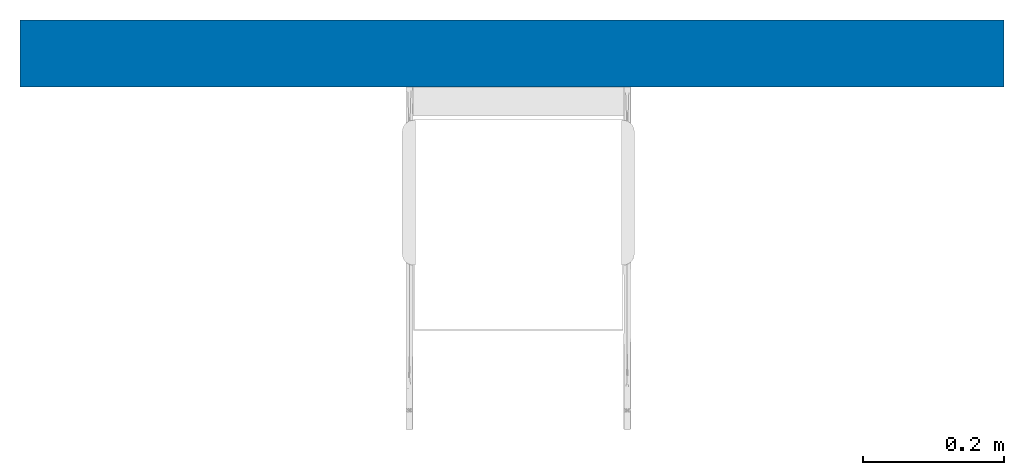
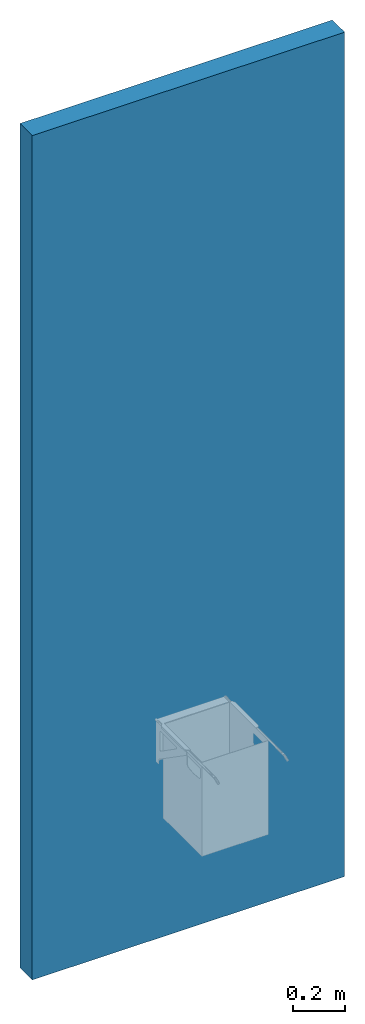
# One storey, incomplete: 1 wall.
"""IFC2X3 building model written with IfcOpenShell, lengths in millimetres."""

import ifcopenshell
import ifcopenshell.guid

model = None  # the IFC model being written
_history = None  # IfcOwnerHistory: only IFC2X3 demands one
_inside = {}  # id of a spatial element -> (the spatial element, [elements in it])
_under = {}  # id of a project, library or spatial element -> (it, [spatial elements below it])
_declared = {}  # id of a project -> (the project, [libraries it declares])
_typed = {}  # id of a type object -> (the type object, [elements of that type])
_made_of = {}  # id of a material, layer set ... -> (it, [elements and type objects made of it])


def new_model(schema):
    """Start an empty IFC model of exactly this schema.

    Asked for "IFC4X3", IfcOpenShell would pick the latest addendum, in which some entities
    have other attributes; the version numbers below select the first issue.
    IFC2X3 requires an IfcOwnerHistory on every rooted entity: one is made here for all.
    """
    global model, _history
    if schema == "IFC4X3":
        model = ifcopenshell.file(schema_version=(4, 3, 0, 0))
    else:
        model = ifcopenshell.file(schema=schema)
    _inside.clear()
    _under.clear()
    _declared.clear()
    _typed.clear()
    _made_of.clear()
    _history = None
    if model.schema == "IFC2X3":
        org = make("IfcOrganization", Name="unknown")
        user = make(
            "IfcPersonAndOrganization",
            ThePerson=make("IfcPerson", FamilyName="unknown"),
            TheOrganization=org,
        )
        app = make(
            "IfcApplication",
            ApplicationDeveloper=org,
            Version="unknown",
            ApplicationFullName="unknown",
            ApplicationIdentifier="unknown",
        )
        _history = make(
            "IfcOwnerHistory",
            OwningUser=user,
            OwningApplication=app,
            ChangeAction="ADDED",
            CreationDate=0,
        )
    return model


def make(cls, **values):
    """One entity of the class cls with the attributes given. An attribute that is None is left unset."""
    return model.create_entity(
        cls, **{name: value for name, value in values.items() if value is not None}
    )


def entity(cls, *values):
    """Any entity or typed value of the class cls, its attributes in the order of the schema. None: left unset."""
    e = model.create_entity(cls)
    for i, value in enumerate(values):
        if value is not None:
            e[i] = value
    return e


def rooted(cls, **values):
    """An entity with a GlobalId (a new one), such as an element, a storey or a relation."""
    return make(cls, GlobalId=ifcopenshell.guid.new(), OwnerHistory=_history, **values)


def si_unit(unit_type, name, prefix=None):
    """IfcSIUnit, for example si_unit("LENGTHUNIT", "METRE", prefix="MILLI")."""
    return make("IfcSIUnit", UnitType=unit_type, Prefix=prefix, Name=name)


def converted_unit(unit_type, name, factor, base, dimensions=None, offset=None):
    """IfcConversionBasedUnit, such as the inch: factor (a typed value) times the base unit."""
    return make(
        "IfcConversionBasedUnit"
        if offset is None
        else "IfcConversionBasedUnitWithOffset",
        ConversionOffset=offset,
        Dimensions=None
        if dimensions is None
        else entity("IfcDimensionalExponents", *dimensions),
        UnitType=unit_type,
        Name=name,
        ConversionFactor=make(
            "IfcMeasureWithUnit", ValueComponent=factor, UnitComponent=base
        ),
    )


def derived_unit(unit_type, elements):
    """IfcDerivedUnit: a product of units, each with its exponent."""
    return make(
        "IfcDerivedUnit",
        Elements=[
            make("IfcDerivedUnitElement", Unit=unit, Exponent=power)
            for unit, power in elements
        ],
        UnitType=unit_type,
    )


def assignment(units):
    """IfcUnitAssignment: the units of a project."""
    return None if units is None else make("IfcUnitAssignment", Units=units)


def point(xyz):
    """IfcCartesianPoint."""
    return None if xyz is None else make("IfcCartesianPoint", Coordinates=xyz)


def direction(xyz):
    """IfcDirection."""
    return None if xyz is None else make("IfcDirection", DirectionRatios=xyz)


def frame(location, z_axis=None, x_axis=None):
    """IfcAxis2Placement3D, a coordinate frame: its origin and axes. An axis left out is left unset."""
    return make(
        "IfcAxis2Placement3D",
        Location=point(location),
        Axis=direction(z_axis),
        RefDirection=direction(x_axis),
    )


def frame_2d(location, x_axis=None):
    """IfcAxis2Placement2D, a coordinate frame in the plane: its origin and x axis."""
    return make(
        "IfcAxis2Placement2D", Location=point(location), RefDirection=direction(x_axis)
    )


def origin():
    """The frame at (0, 0, 0) with its axes left unset."""
    return frame((0.0, 0.0, 0.0))


def place(relative_to, where):
    """IfcLocalPlacement: puts the frame where relative to a parent placement (None: the world)."""
    return make(
        "IfcLocalPlacement", PlacementRelTo=relative_to, RelativePlacement=where
    )


def context(
    kind, dimensions, precision=None, world=None, true_north=None, identifier=None
):
    """IfcGeometricRepresentationContext, for example the 3D "Model" context."""
    return make(
        "IfcGeometricRepresentationContext",
        ContextIdentifier=identifier,
        ContextType=kind,
        CoordinateSpaceDimension=dimensions,
        Precision=precision,
        WorldCoordinateSystem=world,
        TrueNorth=true_north,
    )


def subcontext(parent, identifier, kind, view, scale=None):
    """IfcGeometricRepresentationSubContext, for example "Body" below "Model"."""
    return make(
        "IfcGeometricRepresentationSubContext",
        ContextIdentifier=identifier,
        ContextType=kind,
        ParentContext=parent,
        TargetScale=scale,
        TargetView=view,
    )


def project(units=None, contexts=None):
    """IfcProject with its units and contexts."""
    return rooted(
        "IfcProject",
        Name="project",
        RepresentationContexts=contexts,
        UnitsInContext=assignment(units),
    )


def spatial(cls, under=None, at=None, **own):
    """A site, building, storey or space (cls), placed at a placement, below another one or the project."""
    s = rooted(cls, ObjectPlacement=at, **own)
    if under is not None:
        _under.setdefault(under.id(), (under, []))[1].append(s)
    return s


def profile(cls, at=None, kind="AREA", **sizes):
    """A parametric profile (cls). Its sizes go by their IFC names, for example OverallWidth=200.0."""
    return make(cls, ProfileType=kind, Position=at, **sizes)


def rectangle(**sizes):
    """IfcRectangleProfileDef."""
    return profile("IfcRectangleProfileDef", **sizes)


def extrude(swept, where, along, depth):
    """IfcExtrudedAreaSolid: the profile swept, set in the frame where, extruded along a direction by depth."""
    return make(
        "IfcExtrudedAreaSolid",
        SweptArea=swept,
        Position=where,
        ExtrudedDirection=direction(along),
        Depth=depth,
    )


def shape(context_of_items, identifier, shape_type, items):
    """IfcShapeRepresentation: the items that make up one representation, for example the "Body"."""
    return make(
        "IfcShapeRepresentation",
        ContextOfItems=context_of_items,
        RepresentationIdentifier=identifier,
        RepresentationType=shape_type,
        Items=items,
    )


def material(Name=None, Category=None):
    """IfcMaterial."""
    return make("IfcMaterial", Name=Name, Category=Category)


def layer(
    of_material, thickness, ventilated=None, Name=None, Category=None, Priority=None
):
    """IfcMaterialLayer: one layer of a wall or slab, of a material (None: an air gap)."""
    return make(
        "IfcMaterialLayer",
        Material=of_material,
        LayerThickness=thickness,
        IsVentilated=ventilated,
        Name=Name,
        Category=Category,
        Priority=Priority,
    )


def layer_set(layers, Name=None):
    """IfcMaterialLayerSet."""
    return make("IfcMaterialLayerSet", MaterialLayers=layers, LayerSetName=Name)


def layer_usage(for_layer_set, set_direction, sense, offset, extent=None):
    """IfcMaterialLayerSetUsage: how a layer set lies in its element."""
    return make(
        "IfcMaterialLayerSetUsage",
        ForLayerSet=for_layer_set,
        LayerSetDirection=set_direction,
        DirectionSense=sense,
        OffsetFromReferenceLine=offset,
        ReferenceExtent=extent,
    )


def made_of(thing, what):
    """Note that an element or type object is made of a material, layer set ...; save() writes the relation."""
    if what is not None:
        _made_of.setdefault(what.id(), (what, []))[1].append(thing)
    return thing


def type_object(cls, material=None, **own):
    """A type object (cls), such as IfcWallType, which elements share."""
    return made_of(rooted(cls, **own), material)


def element(
    cls,
    number,
    at=None,
    inside=None,
    cuts=None,
    type_object=None,
    material=None,
    context=None,
    identifier="Body",
    shape_type=None,
    held_by="IfcProductDefinitionShape",
    body=None,
    shapes=None,
    **own,
):
    """One element of the class cls, such as IfcWall. Its Tag is "e" and its number.

    at: its placement. inside: the storey or other place that contains it. cuts: it is an
    opening in that element (IfcRelVoidsElement). A single representation is given by context,
    identifier, shape_type and body (its items); several are given by shapes. held_by: the class
    of the entity that holds the representations. save() writes the other relations.
    """
    e = rooted(cls, Tag="e%d" % number, ObjectPlacement=at, **own)
    if body is not None:
        shapes = [shape(context, identifier, shape_type, body)]
    if shapes is not None:
        e.Representation = make(held_by, Representations=shapes)
    if inside is not None:
        _inside.setdefault(inside.id(), (inside, []))[1].append(e)
    if cuts is not None:
        rooted(
            "IfcRelVoidsElement", RelatingBuildingElement=cuts, RelatedOpeningElement=e
        )
    if type_object is not None:
        _typed.setdefault(type_object.id(), (type_object, []))[1].append(e)
    return made_of(e, material)


def aggregate(whole, parts):
    """IfcRelAggregates: a whole, such as a stair, and the parts it consists of."""
    return rooted("IfcRelAggregates", RelatingObject=whole, RelatedObjects=parts)


def save(model, path):
    """Write the relations noted so far, then the file.

    IfcRelAggregates (storeys below a building ...), IfcRelContainedInSpatialStructure (elements
    in a storey), IfcRelDefinesByType, IfcRelAssociatesMaterial and IfcRelDeclares: one each for
    every whole, place, type object, material and project.
    """
    for whole, parts in _under.values():
        aggregate(whole, parts)
    for where, things in _inside.values():
        rooted(
            "IfcRelContainedInSpatialStructure",
            RelatedElements=things,
            RelatingStructure=where,
        )
    for kind, things in _typed.values():
        rooted("IfcRelDefinesByType", RelatedObjects=things, RelatingType=kind)
    for what, things in _made_of.values():
        rooted("IfcRelAssociatesMaterial", RelatedObjects=things, RelatingMaterial=what)
    for by, libraries in _declared.values():
        rooted("IfcRelDeclares", RelatingContext=by, RelatedDefinitions=libraries)
    model.write(path)


model = new_model("IFC2X3")

# Units and contexts
model_context = context("Model", 3, precision=0.01, world=origin(), true_north=direction((6.12303176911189e-17, 1.0)))
context_of_model = context(None, 3, precision=0.01, world=origin(), true_north=direction((6.12303176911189e-17, 1.0)))
body_context = subcontext(model_context, "Body", "Model", "MODEL_VIEW")
ifc_project = project(units=[si_unit("LENGTHUNIT", "METRE", prefix="MILLI"), si_unit("AREAUNIT", "SQUARE_METRE"), si_unit("VOLUMEUNIT", "CUBIC_METRE"), converted_unit("PLANEANGLEUNIT", "DEGREE", entity("IfcRatioMeasure", 0.0174532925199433), si_unit("PLANEANGLEUNIT", "RADIAN"), dimensions=[0, 0, 0, 0, 0, 0, 0]), si_unit("MASSUNIT", "GRAM", prefix="KILO"), si_unit("TIMEUNIT", "SECOND"), si_unit("FREQUENCYUNIT", "HERTZ"), si_unit("THERMODYNAMICTEMPERATUREUNIT", "DEGREE_CELSIUS"), derived_unit("THERMALTRANSMITTANCEUNIT", [(si_unit("MASSUNIT", "GRAM", prefix="KILO"), 1), (si_unit("THERMODYNAMICTEMPERATUREUNIT", "KELVIN"), -1), (si_unit("TIMEUNIT", "SECOND"), -3)]), derived_unit("VOLUMETRICFLOWRATEUNIT", [(si_unit("LENGTHUNIT", "METRE"), 3), (si_unit("TIMEUNIT", "SECOND"), -1)]), si_unit("ELECTRICCURRENTUNIT", "AMPERE"), si_unit("ELECTRICVOLTAGEUNIT", "VOLT"), si_unit("POWERUNIT", "WATT"), si_unit("FORCEUNIT", "NEWTON", prefix="KILO"), si_unit("ILLUMINANCEUNIT", "LUX"), si_unit("LUMINOUSFLUXUNIT", "LUMEN"), si_unit("LUMINOUSINTENSITYUNIT", "CANDELA"), si_unit("PRESSUREUNIT", "PASCAL")], contexts=[model_context, context_of_model])

# Site, building, storey
site_placement = place(None, origin())
site = spatial("IfcSite", under=ifc_project, at=site_placement, Name="Default", CompositionType="ELEMENT")
building_placement = place(site_placement, origin())
building = spatial("IfcBuilding", under=site, at=building_placement, CompositionType="ELEMENT")
storey_placement = place(building_placement, origin())
storey = spatial("IfcBuildingStorey", under=building, at=storey_placement, Name="Level 0", CompositionType="ELEMENT", Elevation=0.0)

# Wall
ifc_material_1 = material(Name="Plaster")
ifc_layer_1 = layer(ifc_material_1, 12.5)
ifc_material_2 = material(Name="Metal Stud Layer")
ifc_layer_2 = layer(ifc_material_2, 70.0)
ifc_layer_3 = layer(ifc_material_1, 12.5)
ifc_layer_set = layer_set([ifc_layer_1, ifc_layer_2, ifc_layer_3], Name="Basic Wall:Wall-Partn_12P-70MStd-12P")
ifc_layer_usage = layer_usage(ifc_layer_set, "AXIS2", "NEGATIVE", 47.5)
wall_type = type_object("IfcWallType", Name="Basic Wall:Wall-Partn_12P-70MStd-12P", PredefinedType="STANDARD", material=ifc_layer_set)
wall_placement = place(storey_placement, frame((3880.94298835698, 5790.27886266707, 0.0)))
element("IfcWallStandardCase", 1, at=wall_placement, inside=storey, type_object=wall_type, material=ifc_layer_usage, Name="Basic Wall:Wall-Partn_12P-70MStd-12P", ObjectType="Basic Wall:Wall-Partn_12P-70MStd-12P", context=body_context, shape_type="SweptSolid", body=[
    extrude(rectangle(XDim=1400.0, YDim=95.0000000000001, at=frame_2d((700.0, -2.02504679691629e-13), x_axis=(-1.0, 0.0))), origin(), (0.0, 0.0, 1.0), 4000.0),
])

save(model, "model.ifc")
